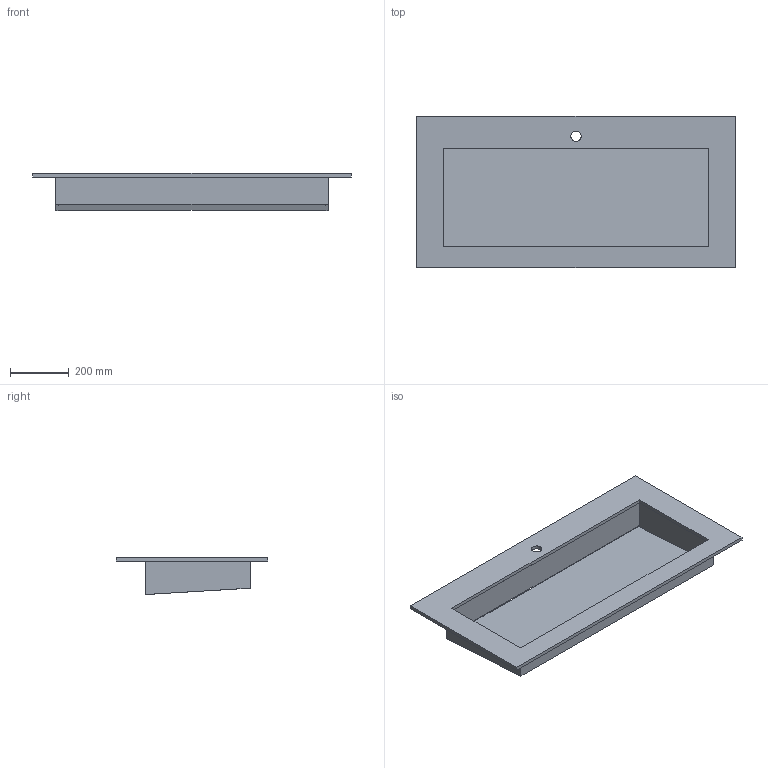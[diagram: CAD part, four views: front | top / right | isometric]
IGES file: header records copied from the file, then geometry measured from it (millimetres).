
Start section: Data from Parasolid IGES Translator 19.0.9, Copyright(c) 2006 Siemens PL M Software. All Rights Reserved.
Global section: file name: noorth-top-H 1,2 D 51,3 W 108_4649.igs; native system: By Siemens PLM Incorporated; preprocessor: XPlus GENERIC/IGES 19.0.9; author: Noname; organization: Noname; date: 20200603.113223; units: metre
Bounding box: 1080 x 512 x 125.7 mm (x, y, z)
Volume: 9984152 mm3; surface area: 1708842.9 mm2
Topology: 2 solids, 2 shells, 30 faces, 81 edges, 54 vertices
Faces by surface type: plane 29, cylinder 1
Full cylindrical faces by diameter (mm): 34.9 x1
